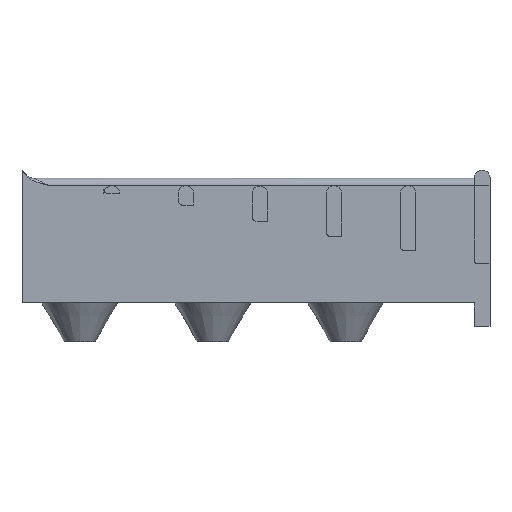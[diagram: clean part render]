
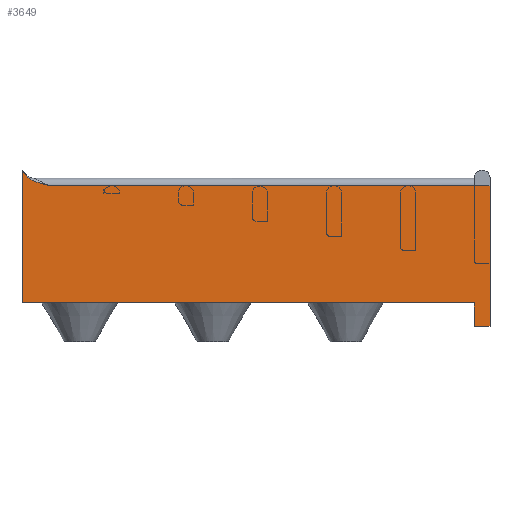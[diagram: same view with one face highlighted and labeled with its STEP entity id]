
A CAD part, left-side view. The second image highlights one B-rep face of the part: STEP entity #3649.
In plain terms, the highlighted planar face has unit normal (-1, 0, 0).
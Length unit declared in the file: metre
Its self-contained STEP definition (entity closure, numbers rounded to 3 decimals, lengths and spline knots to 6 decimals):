
#180=B_SPLINE_CURVE_WITH_KNOTS('',3,(#6191,#6192,#6193,#6194,#6195,#6196),
 .UNSPECIFIED.,.F.,.F.,(4,1,1,4),(0.,0.001656,
0.003312,0.006625),.UNSPECIFIED.);
#303=PLANE('',#4106);
#503=LINE('',#6124,#741);
#518=LINE('',#6185,#756);
#521=LINE('',#6198,#759);
#522=LINE('',#6199,#760);
#523=LINE('',#6201,#761);
#524=LINE('',#6203,#762);
#525=LINE('',#6205,#763);
#741=VECTOR('',#4929,1.);
#756=VECTOR('',#4976,1.);
#759=VECTOR('',#4981,1.);
#760=VECTOR('',#4982,1.);
#761=VECTOR('',#4983,1.);
#762=VECTOR('',#4984,1.);
#763=VECTOR('',#4985,1.);
#1305=ORIENTED_EDGE('',*,*,#2212,.T.);
#1306=ORIENTED_EDGE('',*,*,#2242,.T.);
#1307=ORIENTED_EDGE('',*,*,#2243,.T.);
#1308=ORIENTED_EDGE('',*,*,#2239,.F.);
#1309=ORIENTED_EDGE('',*,*,#2244,.F.);
#1310=ORIENTED_EDGE('',*,*,#2245,.T.);
#1311=ORIENTED_EDGE('',*,*,#2246,.F.);
#1312=ORIENTED_EDGE('',*,*,#2247,.T.);
#2212=EDGE_CURVE('',#2688,#2687,#503,.T.);
#2239=EDGE_CURVE('',#2710,#2711,#518,.T.);
#2242=EDGE_CURVE('',#2687,#2712,#180,.F.);
#2243=EDGE_CURVE('',#2712,#2711,#521,.T.);
#2244=EDGE_CURVE('',#2713,#2710,#522,.T.);
#2245=EDGE_CURVE('',#2713,#2714,#523,.T.);
#2246=EDGE_CURVE('',#2715,#2714,#524,.T.);
#2247=EDGE_CURVE('',#2715,#2688,#525,.T.);
#2687=VERTEX_POINT('',#6123);
#2688=VERTEX_POINT('',#6125);
#2710=VERTEX_POINT('',#6186);
#2711=VERTEX_POINT('',#6187);
#2712=VERTEX_POINT('',#6197);
#2713=VERTEX_POINT('',#6200);
#2714=VERTEX_POINT('',#6202);
#2715=VERTEX_POINT('',#6204);
#3092=EDGE_LOOP('',(#1305,#1306,#1307,#1308,#1309,#1310,#1311,#1312));
#3335=FACE_BOUND('',#3092,.T.);
#3649=ADVANCED_FACE('',(#3335),#303,.T.);
#4106=AXIS2_PLACEMENT_3D('',#6190,#4979,#4980);
#4929=DIRECTION('',(0.,1.,0.));
#4976=DIRECTION('',(0.,0.,1.));
#4979=DIRECTION('',(-1.,0.,0.));
#4980=DIRECTION('',(0.,0.,1.));
#4981=DIRECTION('',(0.,0.621,0.784));
#4982=DIRECTION('',(0.,1.,0.));
#4983=DIRECTION('',(0.,0.,-1.));
#4984=DIRECTION('',(0.,1.,0.));
#4985=DIRECTION('',(0.,0.,1.));
#6123=CARTESIAN_POINT('',(-0.047684,-0.007001,0.009735));
#6124=CARTESIAN_POINT('',(-0.047684,-0.12,0.009735));
#6125=CARTESIAN_POINT('',(-0.047684,-0.12,0.009735));
#6185=CARTESIAN_POINT('',(-0.047684,0.,-0.004299));
#6186=CARTESIAN_POINT('',(-0.047684,0.,-0.020333));
#6187=CARTESIAN_POINT('',(-0.047684,0.,0.013735));
#6190=CARTESIAN_POINT('',(-0.047684,-0.12,-0.004299));
#6191=CARTESIAN_POINT('',(-0.047684,-0.001052,0.012409));
#6192=CARTESIAN_POINT('',(-0.047684,-0.0014,0.01197));
#6193=CARTESIAN_POINT('',(-0.047684,-0.002272,0.011263));
#6194=CARTESIAN_POINT('',(-0.047684,-0.004302,0.010387));
#6195=CARTESIAN_POINT('',(-0.047684,-0.00593,0.010001));
#6196=CARTESIAN_POINT('',(-0.047684,-0.007001,0.009735));
#6197=CARTESIAN_POINT('',(-0.047684,-0.001052,0.012409));
#6198=CARTESIAN_POINT('',(-0.047684,-0.001947,0.01128));
#6199=CARTESIAN_POINT('',(-0.047684,-0.12,-0.020333));
#6200=CARTESIAN_POINT('',(-0.047684,-0.116,-0.020333));
#6201=CARTESIAN_POINT('',(-0.047684,-0.116,-0.004299));
#6202=CARTESIAN_POINT('',(-0.047684,-0.116,-0.026333));
#6203=CARTESIAN_POINT('',(-0.047684,-0.12,-0.026333));
#6204=CARTESIAN_POINT('',(-0.047684,-0.12,-0.026333));
#6205=CARTESIAN_POINT('',(-0.047684,-0.12,-0.004299));
